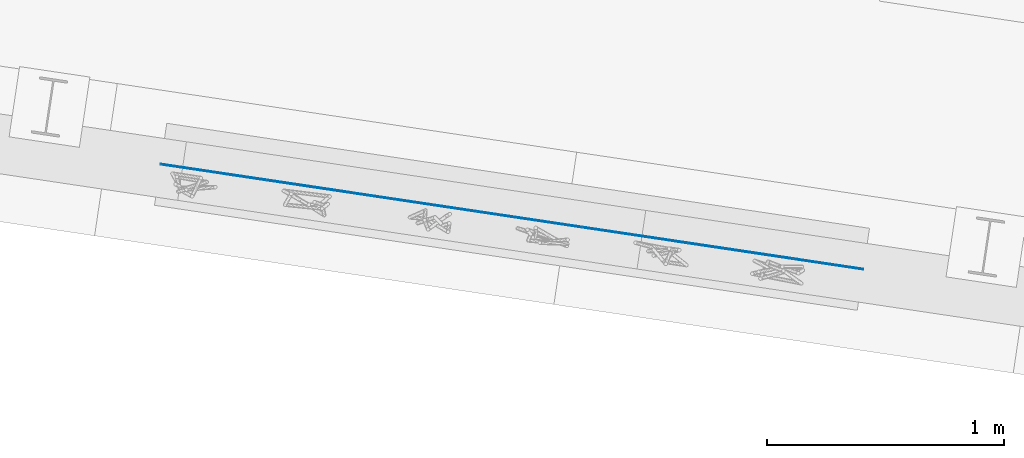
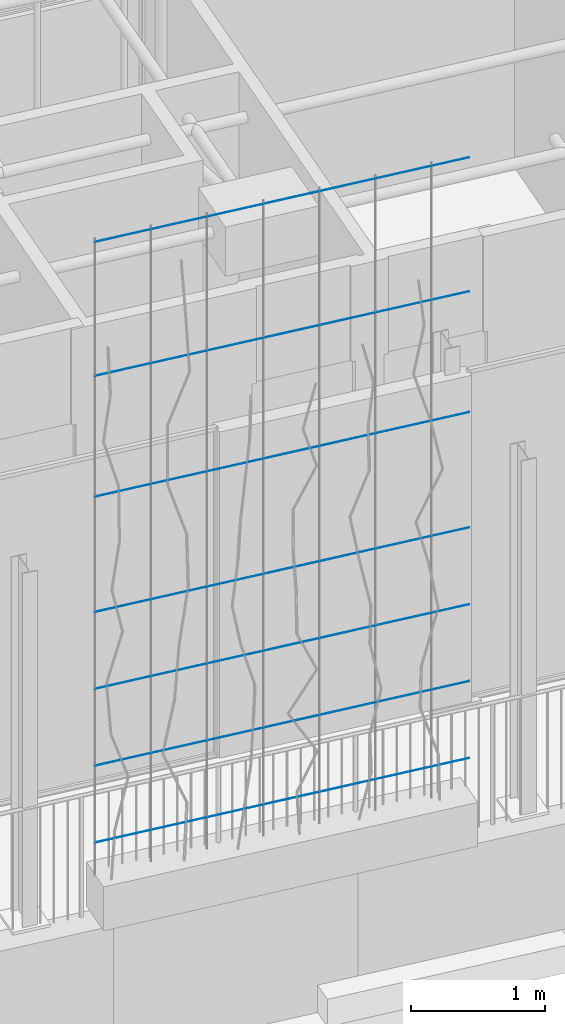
# One storey, part 56 of 142: 7 members, 1 element without a shape of its own.
"""IFC4 building model written with IfcOpenShell, lengths in metres."""

from ifc_helpers import new_model, si_unit, direction, frame, origin_with_axes, place, context, subcontext, project, spatial, circle, extrude, material, material_profile, profile_set, profile_usage, type_object, element, aggregate, save


model = new_model("IFC4")

# Units and contexts
model_context = context("Model", 3, precision=1e-05, world=origin_with_axes(), true_north=direction((0.0, 1.0)))
body_context = subcontext(model_context, "Body", "Model", "MODEL_VIEW")
ifc_project = project(units=[si_unit("VOLUMEUNIT", "CUBIC_METRE"), si_unit("LENGTHUNIT", "METRE"), si_unit("AREAUNIT", "SQUARE_METRE")], contexts=[model_context])

# Site, building, storey
site_placement = place(None, origin_with_axes())
site = spatial("IfcSite", under=ifc_project, at=site_placement, Name="Lares · Rua das Mercês · artigo 4771")
building_placement = place(site_placement, frame((12.0, 10.2, 13.9), z_axis=(0.0, 0.0, 1.0), x_axis=(0.989015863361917, -0.147809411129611, 0.0)))
building = spatial("IfcBuilding", under=site, at=building_placement, Name="Casa Sobreposta")
storey_placement = place(building_placement, origin_with_axes())
storey = spatial("IfcBuildingStorey", under=building, at=storey_placement, Name="00 · Habitação e estacionamento", Elevation=13.9)

# Assembly, members
assembly_placement = place(storey_placement, origin_with_axes())
assembly = element("IfcElementAssembly", 1, at=assembly_placement, inside=storey, Name="Fachada sul e pátio · estrutura e trepadeiras", ObjectType="LIVING_SHADE_TRELLIS", PredefinedType="USERDEFINED")
ifc_material = material(Name="Aço galvanizado / Stahl verzinkt", Category="steel")
ifc_material_profile = material_profile(ifc_material, circle(Radius=0.002))
ifc_profile_set = profile_set([ifc_material_profile], Name="D0.004")
ifc_profile_usage_1 = profile_usage(ifc_profile_set)
member_type = type_object("IfcMemberType", Name="D0.004 / galvanized", PredefinedType="NOTDEFINED", material=ifc_profile_set)
member_1_placement = place(assembly_placement, frame((8.5, -1.61, 0.65), z_axis=(1.0, 0.0, 0.0), x_axis=(0.0, -1.0, 0.0)))
member_1 = element("IfcMember", 2, at=member_1_placement, type_object=member_type, material=ifc_profile_usage_1, Name="Trepadeiras · fio horizontal", context=body_context, shape_type="SweptSolid", body=[
    extrude(circle(Radius=0.002), origin_with_axes(), (0.0, 0.0, 1.0), 3.0),
])
ifc_profile_usage_2 = profile_usage(ifc_profile_set)
member_2_placement = place(assembly_placement, frame((8.5, -1.61, 1.35), z_axis=(1.0, 0.0, 0.0), x_axis=(0.0, -1.0, 0.0)))
member_2 = element("IfcMember", 3, at=member_2_placement, type_object=member_type, material=ifc_profile_usage_2, Name="Trepadeiras · fio horizontal", context=body_context, shape_type="SweptSolid", body=[
    extrude(circle(Radius=0.002), origin_with_axes(), (0.0, 0.0, 1.0), 3.0),
])
ifc_profile_usage_3 = profile_usage(ifc_profile_set)
member_3_placement = place(assembly_placement, frame((8.5, -1.61, 2.05), z_axis=(1.0, 0.0, 0.0), x_axis=(0.0, -1.0, 0.0)))
member_3 = element("IfcMember", 4, at=member_3_placement, type_object=member_type, material=ifc_profile_usage_3, Name="Trepadeiras · fio horizontal", context=body_context, shape_type="SweptSolid", body=[
    extrude(circle(Radius=0.002), origin_with_axes(), (0.0, 0.0, 1.0), 3.0),
])
ifc_profile_usage_4 = profile_usage(ifc_profile_set)
member_4_placement = place(assembly_placement, frame((8.5, -1.61, 2.75), z_axis=(1.0, 0.0, 0.0), x_axis=(0.0, -1.0, 0.0)))
member_4 = element("IfcMember", 5, at=member_4_placement, type_object=member_type, material=ifc_profile_usage_4, Name="Trepadeiras · fio horizontal", context=body_context, shape_type="SweptSolid", body=[
    extrude(circle(Radius=0.002), origin_with_axes(), (0.0, 0.0, 1.0), 3.0),
])
ifc_profile_usage_5 = profile_usage(ifc_profile_set)
member_5_placement = place(assembly_placement, frame((8.5, -1.61, 3.8), z_axis=(1.0, 0.0, 0.0), x_axis=(0.0, -1.0, 0.0)))
member_5 = element("IfcMember", 6, at=member_5_placement, type_object=member_type, material=ifc_profile_usage_5, Name="Trepadeiras · fio horizontal", context=body_context, shape_type="SweptSolid", body=[
    extrude(circle(Radius=0.002), origin_with_axes(), (0.0, 0.0, 1.0), 3.0),
])
ifc_profile_usage_6 = profile_usage(ifc_profile_set)
member_6_placement = place(assembly_placement, frame((8.5, -1.61, 4.9), z_axis=(1.0, 0.0, 0.0), x_axis=(0.0, -1.0, 0.0)))
member_6 = element("IfcMember", 7, at=member_6_placement, type_object=member_type, material=ifc_profile_usage_6, Name="Trepadeiras · fio horizontal", context=body_context, shape_type="SweptSolid", body=[
    extrude(circle(Radius=0.002), origin_with_axes(), (0.0, 0.0, 1.0), 3.0),
])
ifc_profile_usage_7 = profile_usage(ifc_profile_set)
member_7_placement = place(assembly_placement, frame((8.5, -1.61, 6.12), z_axis=(1.0, 0.0, 0.0), x_axis=(0.0, -1.0, 0.0)))
member_7 = element("IfcMember", 8, at=member_7_placement, type_object=member_type, material=ifc_profile_usage_7, Name="Trepadeiras · fio horizontal", context=body_context, shape_type="SweptSolid", body=[
    extrude(circle(Radius=0.002), origin_with_axes(), (0.0, 0.0, 1.0), 3.0),
])
aggregate(assembly, [member_1, member_2, member_3, member_4, member_5, member_6, member_7])

save(model, "model.ifc")
